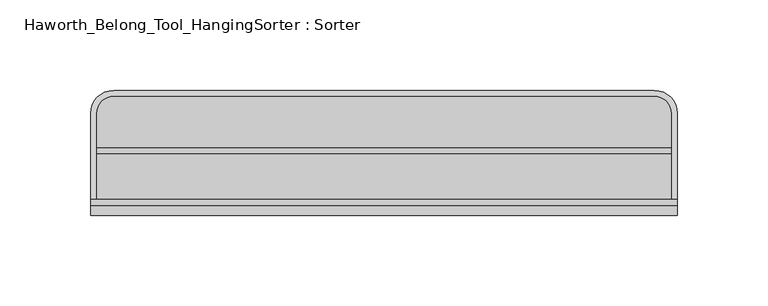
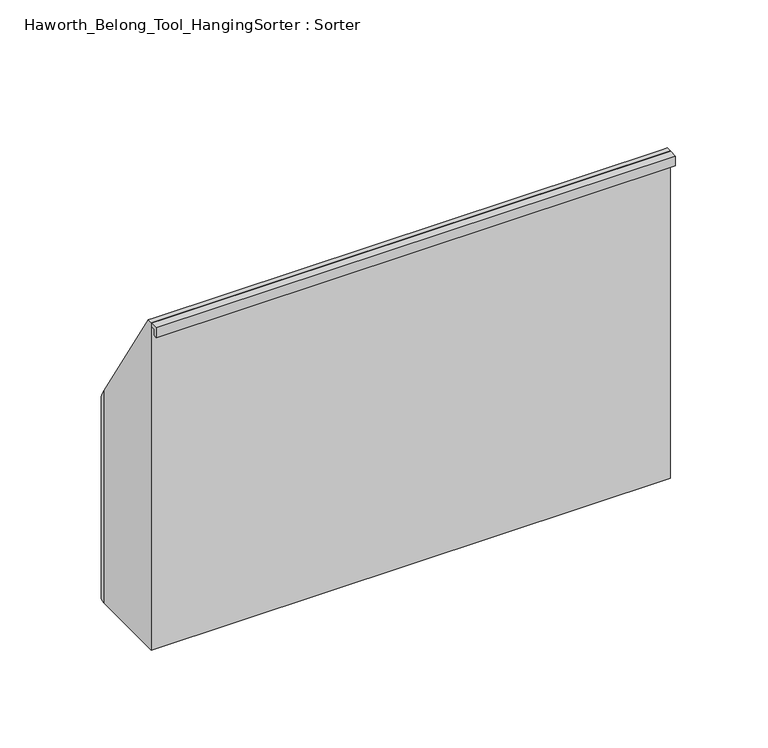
"""IFC4 building model written with IfcOpenShell, lengths in millimetres: furniture geometry, Haworth_Belong_Tool_HangingSorter : Sorter."""

from ifc_helpers import new_model, si_unit, frame, origin, place, context, project, spatial, polyline, circle_curve, ellipse_curve, outline, extrude, source, transform, mapped, element, save
from ifc_brep_helpers import plane_surface, cylinder_surface, revolved_surface, advanced_brep


def haworth_belong_tool_hangingsorter_sorter_caf348c0(model_context):
    return source(origin(), model_context, "Body", "SolidModel", [
        extrude(outline(polyline([(323.85, 28.663732), (6.35, 28.663732), (6.35, 31.75), (323.85, 31.75), (323.85, 28.663732)])), frame((0.0, 0.0, 3.175), z_axis=(0.0, 0.0, 1.0), x_axis=(1.0, 0.0, 0.0)), (0.0, 0.0, 1.0), 159.3856991),
        advanced_brep(
        [(327.025, 0.0, 215.9), (327.025, 3.175, 215.9), (323.85, 3.175, 215.9), (6.35, 3.175, 215.9), (3.175, 3.175, 215.9), (3.175, 0.0, 215.9), (327.025, 50.8, 0.0), (327.025, 0.0, 0.0), (3.175, 0.0, 0.0), (3.175, 50.8, 0.0), (15.875, 63.5, 0.0), (314.325, 63.5, 0.0), (3.175, 50.8, 140.7026316), (15.875, 63.5, 120.65), (314.325, 63.5, 120.65), (327.025, 50.8, 140.7026316), (323.85, 50.8, 140.7026316), (323.85, 50.8, 3.175), (323.85, 3.175, 3.175), (314.325, 60.325, 125.6631579), (314.325, 60.325, 3.175), (15.875, 60.325, 125.6631579), (15.875, 60.325, 3.175), (6.35, 50.8, 140.7026316), (6.35, 50.8, 3.175), (6.35, 3.175, 3.175)],
        [
            (0, 1),
            (1, 2),
            (2, 3),
            (3, 4),
            (4, 5),
            (5, 0),
            (6, 7),
            (7, 8),
            (8, 9),
            (9, 10, circle_curve(frame((15.875, 50.8, 0.0), z_axis=(0.0, 0.0, -1.0), x_axis=(1.0, 0.0, 0.0)), 12.7)),
            (10, 11),
            (11, 6, circle_curve(frame((314.325, 50.8, 0.0), z_axis=(0.0, 0.0, -1.0), x_axis=(1.0, 0.0, 0.0)), 12.7)),
            (4, 12),
            (12, 9),
            (8, 5),
            (12, 13, ellipse_curve(frame((15.875, 50.8, 140.7026316), z_axis=(0.0, -0.8448190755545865, -0.5350520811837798), x_axis=(0.0, -0.5350520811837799, 0.8448190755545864)), 23.7360071, 12.7)),
            (13, 10),
            (13, 14),
            (14, 11),
            (14, 15, ellipse_curve(frame((314.325, 50.8, 140.7026316), z_axis=(0.0, -0.8448190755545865, -0.5350520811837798), x_axis=(0.0, -0.5350520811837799, 0.8448190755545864)), 23.7360071, 12.7)),
            (15, 6),
            (15, 1),
            (0, 7),
            (2, 16),
            (16, 17),
            (17, 18),
            (18, 2),
            (16, 19, ellipse_curve(frame((314.325, 50.8, 140.7026316), z_axis=(0.0, 0.8448190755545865, 0.5350520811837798), x_axis=(0.0, 0.5350520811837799, -0.8448190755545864)), 17.8020053, 9.525)),
            (19, 20),
            (20, 17, circle_curve(frame((314.325, 50.8, 3.175), z_axis=(0.0, 0.0, -1.0), x_axis=(1.0, 0.0, 0.0)), 9.525)),
            (19, 21),
            (21, 22),
            (22, 20),
            (21, 23, ellipse_curve(frame((15.875, 50.8, 140.7026316), z_axis=(0.0, 0.8448190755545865, 0.5350520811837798), x_axis=(0.0, 0.5350520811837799, -0.8448190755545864)), 17.8020053, 9.525)),
            (23, 24),
            (24, 22, circle_curve(frame((15.875, 50.8, 3.175), z_axis=(0.0, 0.0, -1.0), x_axis=(1.0, 0.0, 0.0)), 9.525)),
            (25, 24),
            (23, 3),
            (3, 25),
            (18, 25),
        ],
        [
            plane_surface(frame((3.175, 3.175, 215.9), z_axis=(0.0, 0.0, 1.0), x_axis=(0.0, 1.0, 0.0))),
            plane_surface(frame((3.175, 3.175, 0.0), z_axis=(0.0, 0.0, -1.0), x_axis=(0.0, -1.0, 0.0))),
            plane_surface(frame((3.175, 3.175, 215.9), z_axis=(-1.0, 0.0, 0.0), x_axis=(0.0, 0.0, -1.0))),
            cylinder_surface(frame((15.875, 50.8, 0.0), z_axis=(0.0, 0.0, 1.0), x_axis=(1.0, 0.0, 0.0)), 12.7),
            plane_surface(frame((15.875, 63.5, 215.9), z_axis=(0.0, 1.0, 0.0), x_axis=(0.0, 0.0, -1.0))),
            cylinder_surface(frame((314.325, 50.8, 0.0), z_axis=(0.0, 0.0, 1.0), x_axis=(1.0, 0.0, 0.0)), 12.7),
            plane_surface(frame((327.025, 50.8, 215.9), z_axis=(1.0, 0.0, 0.0), x_axis=(0.0, 0.0, -1.0))),
            plane_surface(frame((323.85, 3.175, 215.9), z_axis=(-1.0, 0.0, 0.0), x_axis=(0.0, 0.0, -1.0))),
            revolved_surface(polyline([(323.84999999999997, 50.8, 3.175), (323.84999999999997, 50.8, 155.74210526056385)]), (314.325, 50.8, 0.0), (0.0, 0.0, -1.0)),
            plane_surface(frame((314.325, 60.325, 215.9), z_axis=(0.0, -1.0, 0.0), x_axis=(0.0, 0.0, -1.0))),
            revolved_surface(polyline([(25.4, 50.8, 3.175), (25.4, 50.8, 155.74210526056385)]), (15.875, 50.8, 0.0), (0.0, 0.0, -1.0)),
            plane_surface(frame((6.35, 50.8, 215.9), z_axis=(1.0, 0.0, 0.0), x_axis=(0.0, 0.0, -1.0))),
            plane_surface(frame((327.025, 0.0, 215.9), z_axis=(0.0, -1.0, 0.0), x_axis=(0.0, 0.0, -1.0))),
            plane_surface(frame((3.175, 3.175, 215.9), z_axis=(0.0, 1.0, 0.0), x_axis=(0.0, 0.0, -1.0))),
            plane_surface(frame((6.35, 3.175, 3.175), z_axis=(0.0, 0.0, 1.0), x_axis=(-1.0, 0.0, 0.0))),
            plane_surface(frame((327.025, 68.9117253, 112.1051705), z_axis=(0.0, 0.8448190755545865, 0.5350520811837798), x_axis=(-1.0, 0.0, 0.0))),
        ],
        [
            (0, [[1, 2, 3, 4, 5, 6]]),
            (1, [[7, 8, 9, 10, 11, 12]]),
            (2, [[-5, 13, 14, -9, 15]]),
            (3, [[-14, 16, 17, -10]]),
            (4, [[-17, 18, 19, -11]]),
            (5, [[-19, 20, 21, -12]]),
            (6, [[-7, -21, 22, -1, 23]]),
            (7, [[24, 25, 26, 27]]),
            (8, [[-25, 28, 29, 30]]),
            (9, [[-29, 31, 32, 33]]),
            (10, [[-32, 34, 35, 36]]),
            (11, [[37, -35, 38, 39]]),
            (12, [[-15, -8, -23, -6]]),
            (13, [[-27, 40, -39, -3]]),
            (14, [[-30, -33, -36, -37, -40, -26]]),
            (15, [[-22, -20, -18, -16, -13, -4, -38, -34, -31, -28, -24, -2]]),
        ],
    ),
        extrude(outline(polyline([(-3.175, 213.51875), (-3.175, 209.55), (-5.55625, 209.55), (-5.55625, 215.9), (0.0, 215.9), (0.0, 213.51875), (-3.175, 213.51875)])), frame((3.175, 0.0, 0.0), z_axis=(1.0, 0.0, 0.0), x_axis=(0.0, 1.0, 0.0)), (0.0, 0.0, 1.0), 323.85),
    ])


if __name__ == "__main__":
    model = new_model("IFC4")
    model_context = context("Model", 3, world=origin())
    ifc_project = project(units=[si_unit("LENGTHUNIT", "METRE", prefix="MILLI")], contexts=[model_context])
    site = spatial("IfcSite", under=ifc_project)
    building = spatial("IfcBuilding", under=site)
    placement = place(None, origin())
    haworth_belong_tool_hangingsorter_sorter_shape = haworth_belong_tool_hangingsorter_sorter_caf348c0(model_context)
    element("IfcFurniture", 1, ObjectType="Haworth_Belong_Tool_HangingSorter : Sorter", at=placement, inside=building, context=model_context, shape_type="MappedRepresentation", body=[
        mapped(haworth_belong_tool_hangingsorter_sorter_shape, transform((0.0, 0.0, 0.0), x_axis=(1.0, 0.0, 0.0), y_axis=(0.0, 1.0, 0.0), z_axis=(0.0, 0.0, 1.0))),
    ])
    save(model, "model.ifc")
